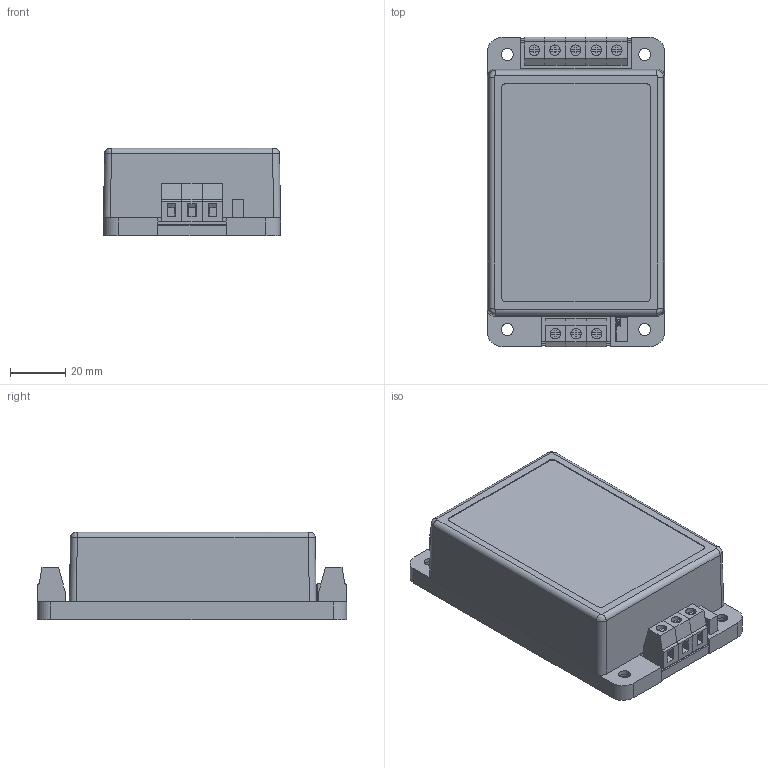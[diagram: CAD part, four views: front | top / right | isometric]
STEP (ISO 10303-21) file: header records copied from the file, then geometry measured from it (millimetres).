
FILE_DESCRIPTION (( 'STEP AP203' ), '1' );
FILE_NAME ('tml40c-2.STEP', '2017-03-15T09:50:02', ( '' ), ( '' ), 'SwSTEP 2.0', 'SolidWorks 2013', '' );
FILE_SCHEMA (( 'CONFIG_CONTROL_DESIGN' ));
Length unit declared in the file: millimetre
Products named in the file (1): tml40c-2
Bounding box: 64.5 x 112.5 x 31.81 mm (x, y, z)
Volume: 60182.2 mm3; surface area: 87704.4 mm2
Topology: 17 solids, 17 shells, 803 faces, 2077 edges, 1359 vertices
Faces by surface type: plane 554, cylinder 160, bspline 57, cone 32
Entity records: 25100 total; most frequent: CARTESIAN_POINT 5493, ORIENTED_EDGE 4142, DIRECTION 3741, EDGE_CURVE 2071, LINE 1619, VECTOR 1619, VERTEX_POINT 1359, AXIS2_PLACEMENT_3D 1061
